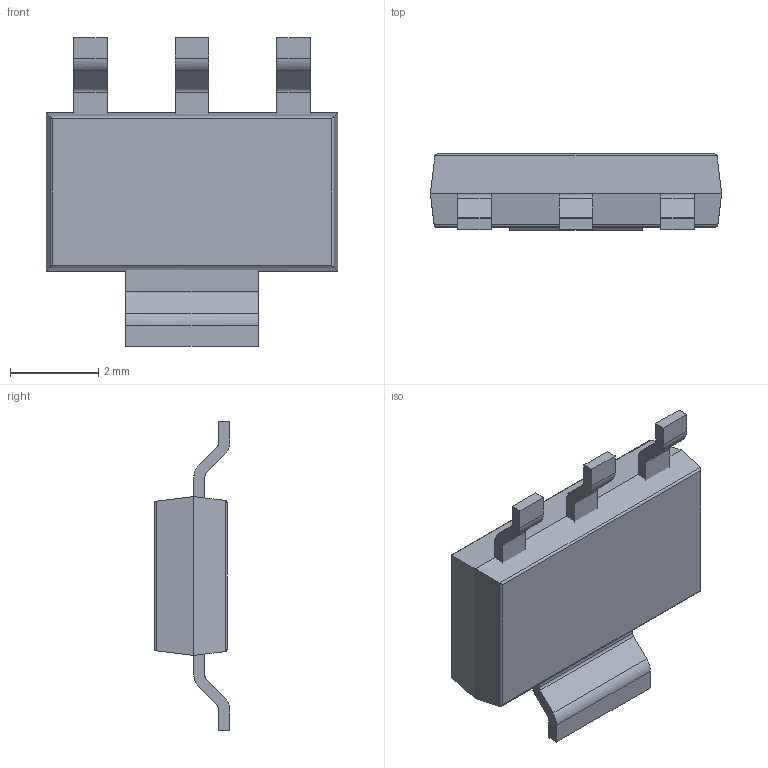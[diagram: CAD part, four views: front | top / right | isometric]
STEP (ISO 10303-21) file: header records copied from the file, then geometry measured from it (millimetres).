
FILE_DESCRIPTION(/* description */ (''),/* implementation_level */ '2;1');
FILE_NAME(/* name */ 'SOT-22~1',/* time_stamp */ '2023-11-21T15:57:29+08:00',/* author */ (''),/* organization */ (''),/* preprocessor_version */ 'ST-DEVELOPER v16.5',/* originating_system */ '',/* authorisation */ '');
FILE_SCHEMA (('AUTOMOTIVE_DESIGN'));
Length unit declared in the file: millimetre
Products named in the file (3): Document; ��1; ��2
Assembly tree (2 placements, depth 2):
  Document
    ��1
    ��2
Bounding box: 6.6 x 1.71 x 7 mm (x, y, z)
Volume: 40.1 mm3; surface area: 103.8 mm2
Topology: 5 solids, 5 shells, 74 faces, 180 edges, 116 vertices
Faces by surface type: plane 50, cylinder 24
Entity records: 1976 total; most frequent: CARTESIAN_POINT 605, ORIENTED_EDGE 360, EDGE_CURVE 180, B_SPLINE_CURVE_WITH_KNOTS 140, VERTEX_POINT 116, DIRECTION 88, AXIS2_PLACEMENT_3D 81, ADVANCED_FACE 74
